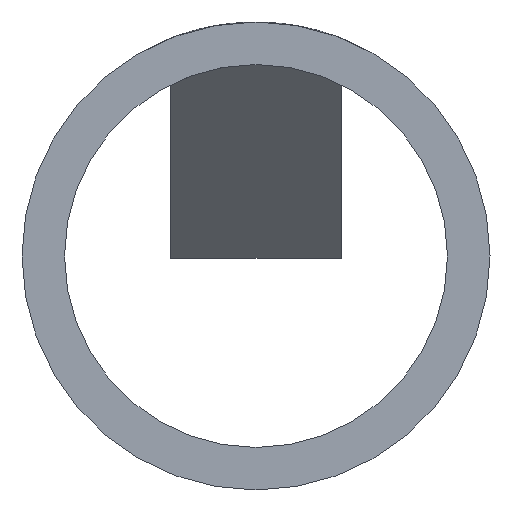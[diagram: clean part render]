
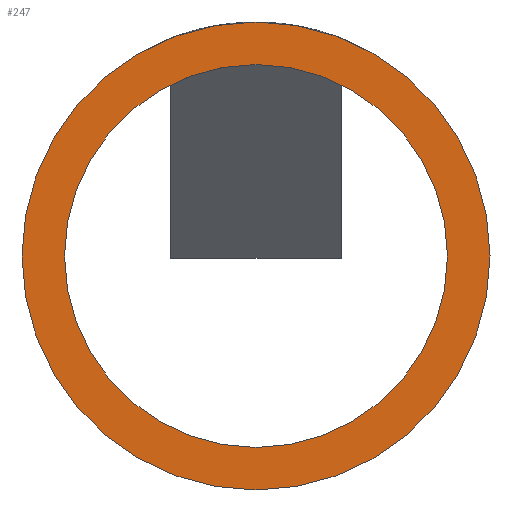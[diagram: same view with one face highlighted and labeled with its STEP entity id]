
A CAD part, front view. The second image highlights one B-rep face of the part: STEP entity #247.
In plain terms, the highlighted planar face has unit normal (0, -1, 0).
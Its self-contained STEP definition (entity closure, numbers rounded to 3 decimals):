
#3 = EDGE_LOOP ( 'NONE', ( #41, #42 ) ) ;
#39 = ORIENTED_EDGE ( 'NONE', *, *, #163, .T. ) ;
#40 = ORIENTED_EDGE ( 'NONE', *, *, #145, .T. ) ;
#41 = ORIENTED_EDGE ( 'NONE', *, *, #157, .F. ) ;
#42 = ORIENTED_EDGE ( 'NONE', *, *, #189, .F. ) ;
#87 = CIRCLE ( 'NONE', #166, 5.5 ) ;
#102 = EDGE_LOOP ( 'NONE', ( #39, #40 ) ) ;
#145 = EDGE_CURVE ( 'NONE', #322, #484, #87, .T. ) ;
#157 = EDGE_CURVE ( 'NONE', #452, #489, #302, .T. ) ;
#161 = AXIS2_PLACEMENT_3D ( 'NONE', #402, #387, #386 ) ;
#163 = EDGE_CURVE ( 'NONE', #484, #322, #294, .T. ) ;
#166 = AXIS2_PLACEMENT_3D ( 'NONE', #448, #446, #445 ) ;
#187 = AXIS2_PLACEMENT_3D ( 'NONE', #326, #312, #311 ) ;
#189 = EDGE_CURVE ( 'NONE', #489, #452, #279, .T. ) ;
#190 = AXIS2_PLACEMENT_3D ( 'NONE', #435, #429, #428 ) ;
#199 = AXIS2_PLACEMENT_3D ( 'NONE', #416, #415, #414 ) ;
#206 = CARTESIAN_POINT ( 'NONE',  ( 5.5, 0., 0. ) ) ;
#211 = CARTESIAN_POINT ( 'NONE',  ( -4.5, 0., 0. ) ) ;
#247 = ADVANCED_FACE ( 'NONE', ( #254, #257 ), #313, .T. ) ;
#254 = FACE_OUTER_BOUND ( 'NONE', #102, .T. ) ;
#257 = FACE_BOUND ( 'NONE', #3, .T. ) ;
#279 = CIRCLE ( 'NONE', #161, 4.5 ) ;
#294 = CIRCLE ( 'NONE', #199, 5.5 ) ;
#302 = CIRCLE ( 'NONE', #190, 4.5 ) ;
#310 = CARTESIAN_POINT ( 'NONE',  ( 4.5, 0., 0. ) ) ;
#311 = DIRECTION ( 'NONE',  ( -1., 0., 0. ) ) ;
#312 = DIRECTION ( 'NONE',  ( 0., -1., 0. ) ) ;
#313 = PLANE ( 'NONE',  #187 ) ;
#318 = CARTESIAN_POINT ( 'NONE',  ( -5.5, 0., 0. ) ) ;
#322 = VERTEX_POINT ( 'NONE', #318 ) ;
#326 = CARTESIAN_POINT ( 'NONE',  ( 0., 0., 0. ) ) ;
#386 = DIRECTION ( 'NONE',  ( -1., 0., 0. ) ) ;
#387 = DIRECTION ( 'NONE',  ( 0., -1., 0. ) ) ;
#402 = CARTESIAN_POINT ( 'NONE',  ( 0., 0., 0. ) ) ;
#414 = DIRECTION ( 'NONE',  ( -1., 0., 0. ) ) ;
#415 = DIRECTION ( 'NONE',  ( 0., -1., 0. ) ) ;
#416 = CARTESIAN_POINT ( 'NONE',  ( 0., 0., 0. ) ) ;
#428 = DIRECTION ( 'NONE',  ( -1., 0., 0. ) ) ;
#429 = DIRECTION ( 'NONE',  ( 0., -1., 0. ) ) ;
#435 = CARTESIAN_POINT ( 'NONE',  ( 0., 0., 0. ) ) ;
#445 = DIRECTION ( 'NONE',  ( -1., 0., 0. ) ) ;
#446 = DIRECTION ( 'NONE',  ( 0., -1., 0. ) ) ;
#448 = CARTESIAN_POINT ( 'NONE',  ( 0., 0., 0. ) ) ;
#452 = VERTEX_POINT ( 'NONE', #310 ) ;
#484 = VERTEX_POINT ( 'NONE', #206 ) ;
#489 = VERTEX_POINT ( 'NONE', #211 ) ;
